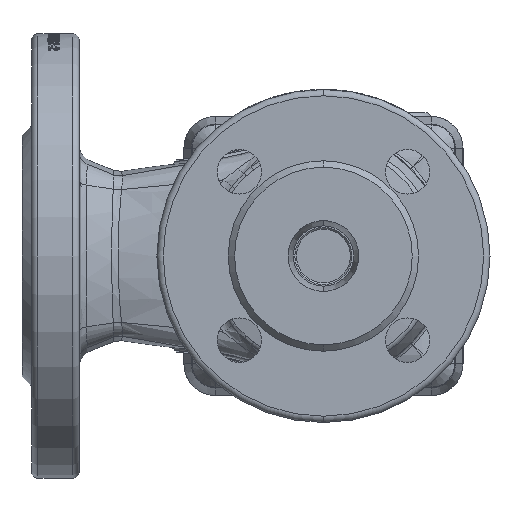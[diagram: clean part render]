
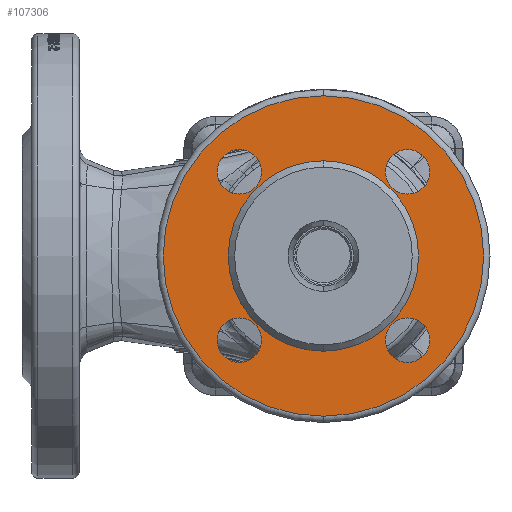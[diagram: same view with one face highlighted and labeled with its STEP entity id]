
A CAD part, front view. The second image highlights one B-rep face of the part: STEP entity #107306.
In plain terms, the highlighted planar face has unit normal (0, -1, 0).
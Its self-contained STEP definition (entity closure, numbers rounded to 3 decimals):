
#549 = CARTESIAN_POINT ( 'NONE',  ( -26.517, -83., -19.517 ) ) ;
#2325 = AXIS2_PLACEMENT_3D ( 'NONE', #89859, #45854, #4896 ) ;
#3413 = AXIS2_PLACEMENT_3D ( 'NONE', #147960, #4655, #120037 ) ;
#4385 = CIRCLE ( 'NONE', #27897, 50.5 ) ;
#4655 = DIRECTION ( 'NONE',  ( 0., -1., 0. ) ) ;
#4680 = DIRECTION ( 'NONE',  ( 0., 1., 0. ) ) ;
#4896 = DIRECTION ( 'NONE',  ( 0., 0., -1. ) ) ;
#5896 = DIRECTION ( 'NONE',  ( 0., 0., 1. ) ) ;
#8228 = EDGE_LOOP ( 'NONE', ( #75795, #122339 ) ) ;
#8245 = CIRCLE ( 'NONE', #155826, 7. ) ;
#11972 = DIRECTION ( 'NONE',  ( 0., 0., -1. ) ) ;
#12398 = EDGE_CURVE ( 'NONE', #161187, #87623, #62847, .T. ) ;
#12759 = DIRECTION ( 'NONE',  ( 0., 0., -1. ) ) ;
#14191 = EDGE_CURVE ( 'NONE', #46723, #76983, #100708, .T. ) ;
#17305 = EDGE_CURVE ( 'NONE', #118708, #53153, #8245, .T. ) ;
#17865 = VERTEX_POINT ( 'NONE', #112014 ) ;
#21321 = FACE_BOUND ( 'NONE', #126880, .T. ) ;
#22212 = CARTESIAN_POINT ( 'NONE',  ( -26.517, -83., 26.517 ) ) ;
#22947 = CARTESIAN_POINT ( 'NONE',  ( 0., -83., 50.5 ) ) ;
#24016 = PLANE ( 'NONE',  #45083 ) ;
#27897 = AXIS2_PLACEMENT_3D ( 'NONE', #84677, #139938, #168517 ) ;
#33418 = ORIENTED_EDGE ( 'NONE', *, *, #167698, .F. ) ;
#33705 = EDGE_LOOP ( 'NONE', ( #114400, #57494 ) ) ;
#36183 = CARTESIAN_POINT ( 'NONE',  ( 0., -83., -30. ) ) ;
#36550 = CIRCLE ( 'NONE', #116776, 50.5 ) ;
#36813 = FACE_OUTER_BOUND ( 'NONE', #33705, .T. ) ;
#38621 = CIRCLE ( 'NONE', #91302, 7. ) ;
#39114 = FACE_BOUND ( 'NONE', #183100, .T. ) ;
#40515 = DIRECTION ( 'NONE',  ( 0., -1., 0. ) ) ;
#41895 = CARTESIAN_POINT ( 'NONE',  ( 26.517, -83., 26.517 ) ) ;
#43517 = FACE_BOUND ( 'NONE', #124019, .T. ) ;
#43898 = EDGE_CURVE ( 'NONE', #129336, #85137, #138541, .T. ) ;
#45083 = AXIS2_PLACEMENT_3D ( 'NONE', #163683, #122044, #137523 ) ;
#45854 = DIRECTION ( 'NONE',  ( 0., -1., 0. ) ) ;
#46723 = VERTEX_POINT ( 'NONE', #106711 ) ;
#49462 = CARTESIAN_POINT ( 'NONE',  ( -26.517, -83., -33.517 ) ) ;
#49575 = CARTESIAN_POINT ( 'NONE',  ( 26.517, -83., -19.517 ) ) ;
#50280 = VERTEX_POINT ( 'NONE', #36183 ) ;
#51633 = AXIS2_PLACEMENT_3D ( 'NONE', #55587, #138698, #167900 ) ;
#53153 = VERTEX_POINT ( 'NONE', #549 ) ;
#55086 = DIRECTION ( 'NONE',  ( 0., -1., 0. ) ) ;
#55587 = CARTESIAN_POINT ( 'NONE',  ( 0., -83., 0. ) ) ;
#57494 = ORIENTED_EDGE ( 'NONE', *, *, #163586, .F. ) ;
#61156 = CARTESIAN_POINT ( 'NONE',  ( 0., -83., 0. ) ) ;
#61637 = AXIS2_PLACEMENT_3D ( 'NONE', #148620, #63618, #97918 ) ;
#62847 = CIRCLE ( 'NONE', #179392, 7. ) ;
#63618 = DIRECTION ( 'NONE',  ( 0., -1., 0. ) ) ;
#68747 = CARTESIAN_POINT ( 'NONE',  ( 26.517, -83., -26.517 ) ) ;
#71164 = DIRECTION ( 'NONE',  ( 0., 0., -1. ) ) ;
#75795 = ORIENTED_EDGE ( 'NONE', *, *, #149796, .F. ) ;
#76863 = FACE_BOUND ( 'NONE', #83993, .T. ) ;
#76983 = VERTEX_POINT ( 'NONE', #91023 ) ;
#80527 = VERTEX_POINT ( 'NONE', #89749 ) ;
#81729 = DIRECTION ( 'NONE',  ( 0., -1., 0. ) ) ;
#82765 = AXIS2_PLACEMENT_3D ( 'NONE', #22212, #136277, #92301 ) ;
#82828 = DIRECTION ( 'NONE',  ( 0., -1., 0. ) ) ;
#83993 = EDGE_LOOP ( 'NONE', ( #91867, #100310 ) ) ;
#84677 = CARTESIAN_POINT ( 'NONE',  ( 0., -83., 0. ) ) ;
#85137 = VERTEX_POINT ( 'NONE', #151441 ) ;
#87623 = VERTEX_POINT ( 'NONE', #49575 ) ;
#89749 = CARTESIAN_POINT ( 'NONE',  ( 0., -83., -50.5 ) ) ;
#89859 = CARTESIAN_POINT ( 'NONE',  ( -26.517, -83., 26.517 ) ) ;
#91023 = CARTESIAN_POINT ( 'NONE',  ( 26.517, -83., 19.517 ) ) ;
#91302 = AXIS2_PLACEMENT_3D ( 'NONE', #124835, #40515, #11972 ) ;
#91867 = ORIENTED_EDGE ( 'NONE', *, *, #43898, .F. ) ;
#92301 = DIRECTION ( 'NONE',  ( 0., 0., -1. ) ) ;
#97918 = DIRECTION ( 'NONE',  ( 0., 0., -1. ) ) ;
#98491 = CIRCLE ( 'NONE', #61637, 7. ) ;
#98975 = EDGE_CURVE ( 'NONE', #53153, #118708, #38621, .T. ) ;
#100310 = ORIENTED_EDGE ( 'NONE', *, *, #147593, .F. ) ;
#100708 = CIRCLE ( 'NONE', #131948, 7. ) ;
#106711 = CARTESIAN_POINT ( 'NONE',  ( 26.517, -83., 33.517 ) ) ;
#107306 = ADVANCED_FACE ( 'NONE', ( #76863, #21321, #43517, #181259, #39114, #36813 ), #24016, .T. ) ;
#111904 = EDGE_CURVE ( 'NONE', #50280, #17865, #182361, .T. ) ;
#112014 = CARTESIAN_POINT ( 'NONE',  ( 0., -83., 30. ) ) ;
#114400 = ORIENTED_EDGE ( 'NONE', *, *, #143659, .F. ) ;
#116776 = AXIS2_PLACEMENT_3D ( 'NONE', #178654, #178054, #119660 ) ;
#116820 = ORIENTED_EDGE ( 'NONE', *, *, #156171, .T. ) ;
#116821 = CIRCLE ( 'NONE', #3413, 7. ) ;
#118708 = VERTEX_POINT ( 'NONE', #49462 ) ;
#119660 = DIRECTION ( 'NONE',  ( 0., 0., 1. ) ) ;
#120037 = DIRECTION ( 'NONE',  ( 0., 0., -1. ) ) ;
#122044 = DIRECTION ( 'NONE',  ( 0., -1., 0. ) ) ;
#122339 = ORIENTED_EDGE ( 'NONE', *, *, #14191, .F. ) ;
#124019 = EDGE_LOOP ( 'NONE', ( #161062, #178191 ) ) ;
#124835 = CARTESIAN_POINT ( 'NONE',  ( -26.517, -83., -26.517 ) ) ;
#126880 = EDGE_LOOP ( 'NONE', ( #171517, #33418 ) ) ;
#129336 = VERTEX_POINT ( 'NONE', #159112 ) ;
#131948 = AXIS2_PLACEMENT_3D ( 'NONE', #41895, #82828, #12759 ) ;
#136277 = DIRECTION ( 'NONE',  ( 0., -1., 0. ) ) ;
#137523 = DIRECTION ( 'NONE',  ( 0., 0., -1. ) ) ;
#138541 = CIRCLE ( 'NONE', #2325, 7. ) ;
#138698 = DIRECTION ( 'NONE',  ( 0., 1., 0. ) ) ;
#139938 = DIRECTION ( 'NONE',  ( 0., 1., 0. ) ) ;
#140704 = VERTEX_POINT ( 'NONE', #22947 ) ;
#140902 = AXIS2_PLACEMENT_3D ( 'NONE', #61156, #4680, #5896 ) ;
#143659 = EDGE_CURVE ( 'NONE', #140704, #80527, #36550, .T. ) ;
#147593 = EDGE_CURVE ( 'NONE', #85137, #129336, #165432, .T. ) ;
#147960 = CARTESIAN_POINT ( 'NONE',  ( 26.517, -83., -26.517 ) ) ;
#148620 = CARTESIAN_POINT ( 'NONE',  ( 26.517, -83., 26.517 ) ) ;
#149796 = EDGE_CURVE ( 'NONE', #76983, #46723, #98491, .T. ) ;
#150079 = CARTESIAN_POINT ( 'NONE',  ( -26.517, -83., -26.517 ) ) ;
#151441 = CARTESIAN_POINT ( 'NONE',  ( -26.517, -83., 33.517 ) ) ;
#155826 = AXIS2_PLACEMENT_3D ( 'NONE', #150079, #81729, #178670 ) ;
#156171 = EDGE_CURVE ( 'NONE', #17865, #50280, #172214, .T. ) ;
#159112 = CARTESIAN_POINT ( 'NONE',  ( -26.517, -83., 19.517 ) ) ;
#161062 = ORIENTED_EDGE ( 'NONE', *, *, #17305, .F. ) ;
#161187 = VERTEX_POINT ( 'NONE', #167322 ) ;
#163586 = EDGE_CURVE ( 'NONE', #80527, #140704, #4385, .T. ) ;
#163683 = CARTESIAN_POINT ( 'NONE',  ( -30., -83., 0. ) ) ;
#165432 = CIRCLE ( 'NONE', #82765, 7. ) ;
#167322 = CARTESIAN_POINT ( 'NONE',  ( 26.517, -83., -33.517 ) ) ;
#167698 = EDGE_CURVE ( 'NONE', #87623, #161187, #116821, .T. ) ;
#167900 = DIRECTION ( 'NONE',  ( 0., 0., 1. ) ) ;
#168517 = DIRECTION ( 'NONE',  ( 0., 0., 1. ) ) ;
#171517 = ORIENTED_EDGE ( 'NONE', *, *, #12398, .F. ) ;
#172214 = CIRCLE ( 'NONE', #140902, 30. ) ;
#175446 = ORIENTED_EDGE ( 'NONE', *, *, #111904, .T. ) ;
#178054 = DIRECTION ( 'NONE',  ( 0., 1., 0. ) ) ;
#178191 = ORIENTED_EDGE ( 'NONE', *, *, #98975, .F. ) ;
#178654 = CARTESIAN_POINT ( 'NONE',  ( 0., -83., 0. ) ) ;
#178670 = DIRECTION ( 'NONE',  ( 0., 0., -1. ) ) ;
#179392 = AXIS2_PLACEMENT_3D ( 'NONE', #68747, #55086, #71164 ) ;
#181259 = FACE_BOUND ( 'NONE', #8228, .T. ) ;
#182361 = CIRCLE ( 'NONE', #51633, 30. ) ;
#183100 = EDGE_LOOP ( 'NONE', ( #116820, #175446 ) ) ;
